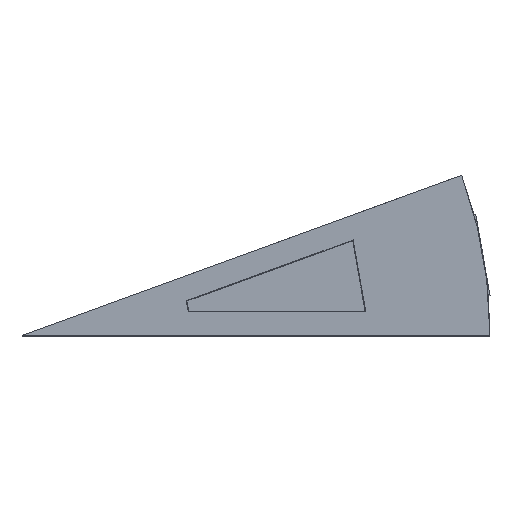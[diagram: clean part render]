
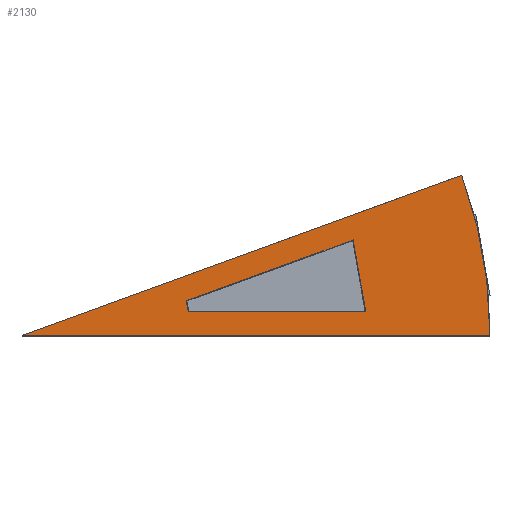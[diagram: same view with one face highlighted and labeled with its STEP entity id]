
A CAD part, top view. The second image highlights one B-rep face of the part: STEP entity #2130.
In plain terms, the highlighted planar face has unit normal (0, 0, 1).
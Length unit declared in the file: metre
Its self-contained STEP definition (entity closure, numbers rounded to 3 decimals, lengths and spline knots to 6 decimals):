
#103 = PLANE('',#104);
#104 = AXIS2_PLACEMENT_3D('',#105,#106,#107);
#105 = CARTESIAN_POINT('',(13.263589,0.,-4.12427));
#106 = DIRECTION('',(-0.,-1.,-0.));
#107 = DIRECTION('',(0.,0.,-1.));
#129 = PLANE('',#130);
#130 = AXIS2_PLACEMENT_3D('',#131,#132,#133);
#131 = CARTESIAN_POINT('',(12.463697,4.536415,
    -4.12427));
#132 = DIRECTION('',(0.342,-0.94,-0.));
#133 = DIRECTION('',(0.,0.,-1.));
#756 = VERTEX_POINT('',#757);
#757 = CARTESIAN_POINT('',(19.292061,0.,11.211291));
#771 = CYLINDRICAL_SURFACE('',#772,19.292061);
#772 = AXIS2_PLACEMENT_3D('',#773,#774,#775);
#773 = CARTESIAN_POINT('',(0.,0.,-15.6));
#774 = DIRECTION('',(0.,0.,1.));
#775 = DIRECTION('',(1.,0.,-0.));
#783 = EDGE_CURVE('',#756,#784,#786,.T.);
#784 = VERTEX_POINT('',#785);
#785 = CARTESIAN_POINT('',(0.,0.,11.211291));
#786 = SURFACE_CURVE('',#787,(#791,#798),.PCURVE_S1.);
#787 = LINE('',#788,#789);
#788 = CARTESIAN_POINT('',(19.292061,0.,11.211291));
#789 = VECTOR('',#790,1.);
#790 = DIRECTION('',(-1.,0.,0.));
#791 = PCURVE('',#103,#792);
#792 = DEFINITIONAL_REPRESENTATION('',(#793),#797);
#793 = LINE('',#794,#795);
#794 = CARTESIAN_POINT('',(-15.336,6.028));
#795 = VECTOR('',#796,1.);
#796 = DIRECTION('',(0.,-1.));
#797 = ( GEOMETRIC_REPRESENTATION_CONTEXT(2) 
PARAMETRIC_REPRESENTATION_CONTEXT() REPRESENTATION_CONTEXT('2D SPACE',''
  ) );
#798 = PCURVE('',#799,#804);
#799 = PLANE('',#800);
#800 = AXIS2_PLACEMENT_3D('',#801,#802,#803);
#801 = CARTESIAN_POINT('',(0.,0.,11.211291));
#802 = DIRECTION('',(0.,0.,1.));
#803 = DIRECTION('',(1.,0.,-0.));
#804 = DEFINITIONAL_REPRESENTATION('',(#805),#809);
#805 = LINE('',#806,#807);
#806 = CARTESIAN_POINT('',(19.292,0.));
#807 = VECTOR('',#808,1.);
#808 = DIRECTION('',(-1.,0.));
#809 = ( GEOMETRIC_REPRESENTATION_CONTEXT(2) 
PARAMETRIC_REPRESENTATION_CONTEXT() REPRESENTATION_CONTEXT('2D SPACE',''
  ) );
#975 = VERTEX_POINT('',#976);
#976 = CARTESIAN_POINT('',(18.128608,6.598274,
    11.211291));
#997 = EDGE_CURVE('',#975,#784,#998,.T.);
#998 = SURFACE_CURVE('',#999,(#1003,#1010),.PCURVE_S1.);
#999 = LINE('',#1000,#1001);
#1000 = CARTESIAN_POINT('',(18.128608,6.598274,
    11.211291));
#1001 = VECTOR('',#1002,1.);
#1002 = DIRECTION('',(-0.94,-0.342,0.));
#1003 = PCURVE('',#129,#1004);
#1004 = DEFINITIONAL_REPRESENTATION('',(#1005),#1009);
#1005 = LINE('',#1006,#1007);
#1006 = CARTESIAN_POINT('',(-15.336,6.028));
#1007 = VECTOR('',#1008,1.);
#1008 = DIRECTION('',(0.,-1.));
#1009 = ( GEOMETRIC_REPRESENTATION_CONTEXT(2) 
PARAMETRIC_REPRESENTATION_CONTEXT() REPRESENTATION_CONTEXT('2D SPACE',''
  ) );
#1010 = PCURVE('',#799,#1011);
#1011 = DEFINITIONAL_REPRESENTATION('',(#1012),#1016);
#1012 = LINE('',#1013,#1014);
#1013 = CARTESIAN_POINT('',(18.129,6.598));
#1014 = VECTOR('',#1015,1.);
#1015 = DIRECTION('',(-0.94,-0.342));
#1016 = ( GEOMETRIC_REPRESENTATION_CONTEXT(2) 
PARAMETRIC_REPRESENTATION_CONTEXT() REPRESENTATION_CONTEXT('2D SPACE',''
  ) );
#1772 = EDGE_CURVE('',#756,#975,#1773,.T.);
#1773 = SURFACE_CURVE('',#1774,(#1779,#1786),.PCURVE_S1.);
#1774 = CIRCLE('',#1775,19.292061);
#1775 = AXIS2_PLACEMENT_3D('',#1776,#1777,#1778);
#1776 = CARTESIAN_POINT('',(0.,0.,11.211291));
#1777 = DIRECTION('',(0.,0.,1.));
#1778 = DIRECTION('',(1.,0.,-0.));
#1779 = PCURVE('',#771,#1780);
#1780 = DEFINITIONAL_REPRESENTATION('',(#1781),#1785);
#1781 = LINE('',#1782,#1783);
#1782 = CARTESIAN_POINT('',(0.,26.811));
#1783 = VECTOR('',#1784,1.);
#1784 = DIRECTION('',(1.,0.));
#1785 = ( GEOMETRIC_REPRESENTATION_CONTEXT(2) 
PARAMETRIC_REPRESENTATION_CONTEXT() REPRESENTATION_CONTEXT('2D SPACE',''
  ) );
#1786 = PCURVE('',#799,#1787);
#1787 = DEFINITIONAL_REPRESENTATION('',(#1788),#1792);
#1788 = CIRCLE('',#1789,19.292061);
#1789 = AXIS2_PLACEMENT_2D('',#1790,#1791);
#1790 = CARTESIAN_POINT('',(0.,0.));
#1791 = DIRECTION('',(1.,0.));
#1792 = ( GEOMETRIC_REPRESENTATION_CONTEXT(2) 
PARAMETRIC_REPRESENTATION_CONTEXT() REPRESENTATION_CONTEXT('2D SPACE',''
  ) );
#2130 = ADVANCED_FACE('',(#2131,#2136),#799,.T.);
#2131 = FACE_BOUND('',#2132,.T.);
#2132 = EDGE_LOOP('',(#2133,#2134,#2135));
#2133 = ORIENTED_EDGE('',*,*,#1772,.T.);
#2134 = ORIENTED_EDGE('',*,*,#997,.T.);
#2135 = ORIENTED_EDGE('',*,*,#783,.F.);
#2136 = FACE_BOUND('',#2137,.T.);
#2137 = EDGE_LOOP('',(#2138,#2168,#2196,#2224));
#2138 = ORIENTED_EDGE('',*,*,#2139,.F.);
#2139 = EDGE_CURVE('',#2140,#2142,#2144,.T.);
#2140 = VERTEX_POINT('',#2141);
#2141 = CARTESIAN_POINT('',(6.853246,0.9741,11.211291));
#2142 = VERTEX_POINT('',#2143);
#2143 = CARTESIAN_POINT('',(14.173904,0.9741,11.211291));
#2144 = SURFACE_CURVE('',#2145,(#2149,#2156),.PCURVE_S1.);
#2145 = LINE('',#2146,#2147);
#2146 = CARTESIAN_POINT('',(7.042043,0.9741,11.211291));
#2147 = VECTOR('',#2148,1.);
#2148 = DIRECTION('',(1.,0.,0.));
#2149 = PCURVE('',#799,#2150);
#2150 = DEFINITIONAL_REPRESENTATION('',(#2151),#2155);
#2151 = LINE('',#2152,#2153);
#2152 = CARTESIAN_POINT('',(7.042,0.974));
#2153 = VECTOR('',#2154,1.);
#2154 = DIRECTION('',(1.,0.));
#2155 = ( GEOMETRIC_REPRESENTATION_CONTEXT(2) 
PARAMETRIC_REPRESENTATION_CONTEXT() REPRESENTATION_CONTEXT('2D SPACE',''
  ) );
#2156 = PCURVE('',#2157,#2162);
#2157 = PLANE('',#2158);
#2158 = AXIS2_PLACEMENT_3D('',#2159,#2160,#2161);
#2159 = CARTESIAN_POINT('',(6.853246,0.9741,11.061291));
#2160 = DIRECTION('',(0.,1.,0.));
#2161 = DIRECTION('',(1.,0.,0.));
#2162 = DEFINITIONAL_REPRESENTATION('',(#2163),#2167);
#2163 = LINE('',#2164,#2165);
#2164 = CARTESIAN_POINT('',(0.189,-0.15));
#2165 = VECTOR('',#2166,1.);
#2166 = DIRECTION('',(1.,0.));
#2167 = ( GEOMETRIC_REPRESENTATION_CONTEXT(2) 
PARAMETRIC_REPRESENTATION_CONTEXT() REPRESENTATION_CONTEXT('2D SPACE',''
  ) );
#2168 = ORIENTED_EDGE('',*,*,#2169,.F.);
#2169 = EDGE_CURVE('',#2170,#2140,#2172,.T.);
#2170 = VERTEX_POINT('',#2171);
#2171 = CARTESIAN_POINT('',(6.773106,1.428594,
    11.211291));
#2172 = SURFACE_CURVE('',#2173,(#2177,#2184),.PCURVE_S1.);
#2173 = LINE('',#2174,#2175);
#2174 = CARTESIAN_POINT('',(6.805891,1.242664,
    11.211291));
#2175 = VECTOR('',#2176,1.);
#2176 = DIRECTION('',(0.174,-0.985,0.));
#2177 = PCURVE('',#799,#2178);
#2178 = DEFINITIONAL_REPRESENTATION('',(#2179),#2183);
#2179 = LINE('',#2180,#2181);
#2180 = CARTESIAN_POINT('',(6.806,1.243));
#2181 = VECTOR('',#2182,1.);
#2182 = DIRECTION('',(0.174,-0.985));
#2183 = ( GEOMETRIC_REPRESENTATION_CONTEXT(2) 
PARAMETRIC_REPRESENTATION_CONTEXT() REPRESENTATION_CONTEXT('2D SPACE',''
  ) );
#2184 = PCURVE('',#2185,#2190);
#2185 = PLANE('',#2186);
#2186 = AXIS2_PLACEMENT_3D('',#2187,#2188,#2189);
#2187 = CARTESIAN_POINT('',(6.773106,1.428594,
    11.061291));
#2188 = DIRECTION('',(0.985,0.174,0.));
#2189 = DIRECTION('',(0.174,-0.985,0.));
#2190 = DEFINITIONAL_REPRESENTATION('',(#2191),#2195);
#2191 = LINE('',#2192,#2193);
#2192 = CARTESIAN_POINT('',(0.189,-0.15));
#2193 = VECTOR('',#2194,1.);
#2194 = DIRECTION('',(1.,0.));
#2195 = ( GEOMETRIC_REPRESENTATION_CONTEXT(2) 
PARAMETRIC_REPRESENTATION_CONTEXT() REPRESENTATION_CONTEXT('2D SPACE',''
  ) );
#2196 = ORIENTED_EDGE('',*,*,#2197,.F.);
#2197 = EDGE_CURVE('',#2198,#2170,#2200,.T.);
#2198 = VERTEX_POINT('',#2199);
#2199 = CARTESIAN_POINT('',(13.652275,3.932406,
    11.211291));
#2200 = SURFACE_CURVE('',#2201,(#2205,#2212),.PCURVE_S1.);
#2201 = LINE('',#2202,#2203);
#2202 = CARTESIAN_POINT('',(13.400302,3.840695,
    11.211291));
#2203 = VECTOR('',#2204,1.);
#2204 = DIRECTION('',(-0.94,-0.342,0.));
#2205 = PCURVE('',#799,#2206);
#2206 = DEFINITIONAL_REPRESENTATION('',(#2207),#2211);
#2207 = LINE('',#2208,#2209);
#2208 = CARTESIAN_POINT('',(13.4,3.841));
#2209 = VECTOR('',#2210,1.);
#2210 = DIRECTION('',(-0.94,-0.342));
#2211 = ( GEOMETRIC_REPRESENTATION_CONTEXT(2) 
PARAMETRIC_REPRESENTATION_CONTEXT() REPRESENTATION_CONTEXT('2D SPACE',''
  ) );
#2212 = PCURVE('',#2213,#2218);
#2213 = PLANE('',#2214);
#2214 = AXIS2_PLACEMENT_3D('',#2215,#2216,#2217);
#2215 = CARTESIAN_POINT('',(13.652275,3.932406,
    11.061291));
#2216 = DIRECTION('',(0.342,-0.94,0.));
#2217 = DIRECTION('',(-0.94,-0.342,0.));
#2218 = DEFINITIONAL_REPRESENTATION('',(#2219),#2223);
#2219 = LINE('',#2220,#2221);
#2220 = CARTESIAN_POINT('',(0.268,-0.15));
#2221 = VECTOR('',#2222,1.);
#2222 = DIRECTION('',(1.,0.));
#2223 = ( GEOMETRIC_REPRESENTATION_CONTEXT(2) 
PARAMETRIC_REPRESENTATION_CONTEXT() REPRESENTATION_CONTEXT('2D SPACE',''
  ) );
#2224 = ORIENTED_EDGE('',*,*,#2225,.F.);
#2225 = EDGE_CURVE('',#2142,#2198,#2226,.T.);
#2226 = SURFACE_CURVE('',#2227,(#2231,#2238),.PCURVE_S1.);
#2227 = LINE('',#2228,#2229);
#2228 = CARTESIAN_POINT('',(14.127342,1.238171,
    11.211291));
#2229 = VECTOR('',#2230,1.);
#2230 = DIRECTION('',(-0.174,0.985,0.));
#2231 = PCURVE('',#799,#2232);
#2232 = DEFINITIONAL_REPRESENTATION('',(#2233),#2237);
#2233 = LINE('',#2234,#2235);
#2234 = CARTESIAN_POINT('',(14.127,1.238));
#2235 = VECTOR('',#2236,1.);
#2236 = DIRECTION('',(-0.174,0.985));
#2237 = ( GEOMETRIC_REPRESENTATION_CONTEXT(2) 
PARAMETRIC_REPRESENTATION_CONTEXT() REPRESENTATION_CONTEXT('2D SPACE',''
  ) );
#2238 = PCURVE('',#2239,#2244);
#2239 = PLANE('',#2240);
#2240 = AXIS2_PLACEMENT_3D('',#2241,#2242,#2243);
#2241 = CARTESIAN_POINT('',(14.173904,0.9741,11.061291));
#2242 = DIRECTION('',(-0.985,-0.174,0.));
#2243 = DIRECTION('',(-0.174,0.985,0.));
#2244 = DEFINITIONAL_REPRESENTATION('',(#2245),#2249);
#2245 = LINE('',#2246,#2247);
#2246 = CARTESIAN_POINT('',(0.268,-0.15));
#2247 = VECTOR('',#2248,1.);
#2248 = DIRECTION('',(1.,0.));
#2249 = ( GEOMETRIC_REPRESENTATION_CONTEXT(2) 
PARAMETRIC_REPRESENTATION_CONTEXT() REPRESENTATION_CONTEXT('2D SPACE',''
  ) );
